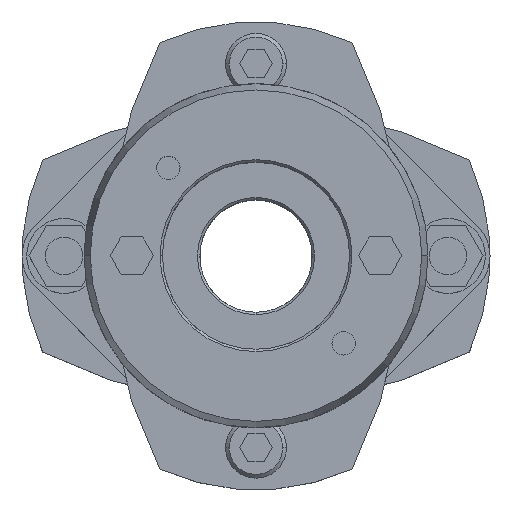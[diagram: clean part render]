
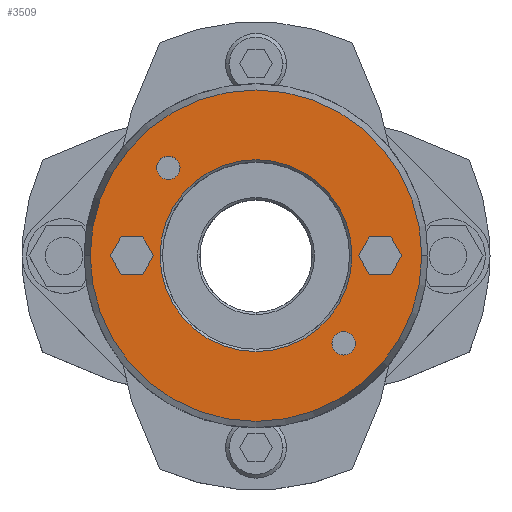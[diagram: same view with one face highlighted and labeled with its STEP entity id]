
A CAD part, top view. The second image highlights one B-rep face of the part: STEP entity #3509.
In plain terms, the highlighted planar face has unit normal (0, 0, 1).
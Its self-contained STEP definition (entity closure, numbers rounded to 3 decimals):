
#1471=CARTESIAN_POINT('',(-20.5,0.,42.0));
#1472=VERTEX_POINT('',#1471);
#1488=CARTESIAN_POINT('',(20.5,0.,42.0));
#1489=VERTEX_POINT('',#1488);
#1496=CARTESIAN_POINT('',(0.,0.,42.0));
#1497=DIRECTION('',(0.0,0.0,1.0));
#1498=DIRECTION('',(-1.0,0.0,0.0));
#1499=AXIS2_PLACEMENT_3D('',#1496,#1497,#1498);
#1500=CIRCLE('',#1499,20.5);
#1501=EDGE_CURVE('',#1489,#1472,#1500,.T.);
#1617=CARTESIAN_POINT('',(35.41,0.,42.0));
#1618=VERTEX_POINT('',#1617);
#1627=CARTESIAN_POINT('',(-35.41,0.,42.0));
#1628=VERTEX_POINT('',#1627);
#1629=CARTESIAN_POINT('',(0.,0.,42.0));
#1630=DIRECTION('',(0.0,0.0,-1.0));
#1631=DIRECTION('',(1.0,0.0,0.0));
#1632=AXIS2_PLACEMENT_3D('',#1629,#1630,#1631);
#1633=CIRCLE('',#1632,35.41);
#1634=EDGE_CURVE('',#1618,#1628,#1633,.T.);
#1803=CARTESIAN_POINT('',(-21.238,18.738,42.0));
#1804=VERTEX_POINT('',#1803);
#1820=CARTESIAN_POINT('',(-16.238,18.738,42.0));
#1821=VERTEX_POINT('',#1820);
#1828=CARTESIAN_POINT('',(-18.738,18.738,42.0));
#1829=DIRECTION('',(0.0,0.0,-1.0));
#1830=DIRECTION('',(-1.0,0.0,0.0));
#1831=AXIS2_PLACEMENT_3D('',#1828,#1829,#1830);
#1832=CIRCLE('',#1831,2.5);
#1833=EDGE_CURVE('',#1804,#1821,#1832,.T.);
#1845=CARTESIAN_POINT('',(16.238,-18.738,42.0));
#1846=VERTEX_POINT('',#1845);
#1862=CARTESIAN_POINT('',(21.238,-18.738,42.0));
#1863=VERTEX_POINT('',#1862);
#1870=CARTESIAN_POINT('',(18.738,-18.738,42.0));
#1871=DIRECTION('',(0.0,0.0,-1.0));
#1872=DIRECTION('',(-1.0,0.0,0.0));
#1873=AXIS2_PLACEMENT_3D('',#1870,#1871,#1872);
#1874=CIRCLE('',#1873,2.5);
#1875=EDGE_CURVE('',#1846,#1863,#1874,.T.);
#2635=CARTESIAN_POINT('',(21.881,0.,42.0));
#2636=VERTEX_POINT('',#2635);
#2643=CARTESIAN_POINT('',(24.191,-4.,42.0));
#2644=VERTEX_POINT('',#2643);
#2645=CARTESIAN_POINT('',(24.191,-4.,42.0));
#2646=DIRECTION('',(-0.5,0.866,0.0));
#2647=VECTOR('',#2646,4.619);
#2648=LINE('',#2645,#2647);
#2649=EDGE_CURVE('',#2644,#2636,#2648,.T.);
#2673=CARTESIAN_POINT('',(24.191,4.,42.0));
#2674=VERTEX_POINT('',#2673);
#2681=CARTESIAN_POINT('',(21.881,0.,42.0));
#2682=DIRECTION('',(0.5,0.866,0.0));
#2683=VECTOR('',#2682,4.619);
#2684=LINE('',#2681,#2683);
#2685=EDGE_CURVE('',#2636,#2674,#2684,.T.);
#2704=CARTESIAN_POINT('',(28.809,4.,42.0));
#2705=VERTEX_POINT('',#2704);
#2712=CARTESIAN_POINT('',(24.191,4.,42.0));
#2713=DIRECTION('',(1.0,0.0,0.0));
#2714=VECTOR('',#2713,4.619);
#2715=LINE('',#2712,#2714);
#2716=EDGE_CURVE('',#2674,#2705,#2715,.T.);
#2735=CARTESIAN_POINT('',(31.119,0.,42.0));
#2736=VERTEX_POINT('',#2735);
#2743=CARTESIAN_POINT('',(28.809,4.,42.0));
#2744=DIRECTION('',(0.5,-0.866,0.0));
#2745=VECTOR('',#2744,4.619);
#2746=LINE('',#2743,#2745);
#2747=EDGE_CURVE('',#2705,#2736,#2746,.T.);
#2766=CARTESIAN_POINT('',(28.809,-4.,42.0));
#2767=VERTEX_POINT('',#2766);
#2774=CARTESIAN_POINT('',(31.119,0.,42.0));
#2775=DIRECTION('',(-0.5,-0.866,0.0));
#2776=VECTOR('',#2775,4.619);
#2777=LINE('',#2774,#2776);
#2778=EDGE_CURVE('',#2736,#2767,#2777,.T.);
#2796=CARTESIAN_POINT('',(28.809,-4.,42.0));
#2797=DIRECTION('',(-1.0,0.0,0.0));
#2798=VECTOR('',#2797,4.619);
#2799=LINE('',#2796,#2798);
#2800=EDGE_CURVE('',#2767,#2644,#2799,.T.);
#2835=CARTESIAN_POINT('',(-31.119,0.,42.0));
#2836=VERTEX_POINT('',#2835);
#2843=CARTESIAN_POINT('',(-28.809,-4.,42.0));
#2844=VERTEX_POINT('',#2843);
#2845=CARTESIAN_POINT('',(-28.809,-4.,42.0));
#2846=DIRECTION('',(-0.5,0.866,0.0));
#2847=VECTOR('',#2846,4.619);
#2848=LINE('',#2845,#2847);
#2849=EDGE_CURVE('',#2844,#2836,#2848,.T.);
#2873=CARTESIAN_POINT('',(-28.809,4.,42.0));
#2874=VERTEX_POINT('',#2873);
#2881=CARTESIAN_POINT('',(-31.119,0.,42.0));
#2882=DIRECTION('',(0.5,0.866,0.0));
#2883=VECTOR('',#2882,4.619);
#2884=LINE('',#2881,#2883);
#2885=EDGE_CURVE('',#2836,#2874,#2884,.T.);
#2904=CARTESIAN_POINT('',(-24.191,4.,42.0));
#2905=VERTEX_POINT('',#2904);
#2912=CARTESIAN_POINT('',(-28.809,4.,42.0));
#2913=DIRECTION('',(1.0,0.0,0.0));
#2914=VECTOR('',#2913,4.619);
#2915=LINE('',#2912,#2914);
#2916=EDGE_CURVE('',#2874,#2905,#2915,.T.);
#2935=CARTESIAN_POINT('',(-21.881,0.,42.0));
#2936=VERTEX_POINT('',#2935);
#2943=CARTESIAN_POINT('',(-24.191,4.,42.0));
#2944=DIRECTION('',(0.5,-0.866,0.0));
#2945=VECTOR('',#2944,4.619);
#2946=LINE('',#2943,#2945);
#2947=EDGE_CURVE('',#2905,#2936,#2946,.T.);
#2966=CARTESIAN_POINT('',(-24.191,-4.,42.0));
#2967=VERTEX_POINT('',#2966);
#2974=CARTESIAN_POINT('',(-21.881,0.,42.0));
#2975=DIRECTION('',(-0.5,-0.866,0.0));
#2976=VECTOR('',#2975,4.619);
#2977=LINE('',#2974,#2976);
#2978=EDGE_CURVE('',#2936,#2967,#2977,.T.);
#2996=CARTESIAN_POINT('',(-24.191,-4.,42.0));
#2997=DIRECTION('',(-1.0,0.0,0.0));
#2998=VECTOR('',#2997,4.619);
#2999=LINE('',#2996,#2998);
#3000=EDGE_CURVE('',#2967,#2844,#2999,.T.);
#3026=CARTESIAN_POINT('',(18.738,-18.738,42.0));
#3027=DIRECTION('',(0.0,0.0,-1.0));
#3028=DIRECTION('',(-1.0,0.0,0.0));
#3029=AXIS2_PLACEMENT_3D('',#3026,#3027,#3028);
#3030=CIRCLE('',#3029,2.5);
#3031=EDGE_CURVE('',#1863,#1846,#3030,.T.);
#3060=CARTESIAN_POINT('',(-18.738,18.738,42.0));
#3061=DIRECTION('',(0.0,0.0,-1.0));
#3062=DIRECTION('',(-1.0,0.0,0.0));
#3063=AXIS2_PLACEMENT_3D('',#3060,#3061,#3062);
#3064=CIRCLE('',#3063,2.5);
#3065=EDGE_CURVE('',#1821,#1804,#3064,.T.);
#3456=CARTESIAN_POINT('',(0.,0.,42.0));
#3457=DIRECTION('',(0.0,0.0,-1.0));
#3458=DIRECTION('',(1.0,0.0,0.0));
#3459=AXIS2_PLACEMENT_3D('',#3456,#3457,#3458);
#3460=CIRCLE('',#3459,35.41);
#3461=EDGE_CURVE('',#1628,#1618,#3460,.T.);
#3466=CARTESIAN_POINT('',(-3.341,0.,42.0));
#3467=DIRECTION('',(0.0,0.0,1.0));
#3468=DIRECTION('',(-1.0,0.0,0.0));
#3469=AXIS2_PLACEMENT_3D('',#3466,#3467,#3468);
#3470=PLANE('',#3469);
#3471=ORIENTED_EDGE('',*,*,#3461,.F.);
#3472=ORIENTED_EDGE('',*,*,#1634,.F.);
#3473=EDGE_LOOP('',(#3471,#3472));
#3474=FACE_OUTER_BOUND('',#3473,.T.);
#3475=ORIENTED_EDGE('',*,*,#2649,.T.);
#3476=ORIENTED_EDGE('',*,*,#2685,.T.);
#3477=ORIENTED_EDGE('',*,*,#2716,.T.);
#3478=ORIENTED_EDGE('',*,*,#2747,.T.);
#3479=ORIENTED_EDGE('',*,*,#2778,.T.);
#3480=ORIENTED_EDGE('',*,*,#2800,.T.);
#3481=EDGE_LOOP('',(#3475,#3476,#3477,#3478,#3479,#3480));
#3482=FACE_BOUND('',#3481,.T.);
#3483=ORIENTED_EDGE('',*,*,#2849,.T.);
#3484=ORIENTED_EDGE('',*,*,#2885,.T.);
#3485=ORIENTED_EDGE('',*,*,#2916,.T.);
#3486=ORIENTED_EDGE('',*,*,#2947,.T.);
#3487=ORIENTED_EDGE('',*,*,#2978,.T.);
#3488=ORIENTED_EDGE('',*,*,#3000,.T.);
#3489=EDGE_LOOP('',(#3483,#3484,#3485,#3486,#3487,#3488));
#3490=FACE_BOUND('',#3489,.T.);
#3491=ORIENTED_EDGE('',*,*,#1875,.T.);
#3492=ORIENTED_EDGE('',*,*,#3031,.T.);
#3493=EDGE_LOOP('',(#3491,#3492));
#3494=FACE_BOUND('',#3493,.T.);
#3495=ORIENTED_EDGE('',*,*,#1833,.T.);
#3496=ORIENTED_EDGE('',*,*,#3065,.T.);
#3497=EDGE_LOOP('',(#3495,#3496));
#3498=FACE_BOUND('',#3497,.T.);
#3499=ORIENTED_EDGE('',*,*,#1501,.F.);
#3500=CARTESIAN_POINT('',(0.,0.,42.0));
#3501=DIRECTION('',(0.0,0.0,1.0));
#3502=DIRECTION('',(-1.0,0.0,0.0));
#3503=AXIS2_PLACEMENT_3D('',#3500,#3501,#3502);
#3504=CIRCLE('',#3503,20.5);
#3505=EDGE_CURVE('',#1472,#1489,#3504,.T.);
#3506=ORIENTED_EDGE('',*,*,#3505,.F.);
#3507=EDGE_LOOP('',(#3499,#3506));
#3508=FACE_BOUND('',#3507,.T.);
#3509=ADVANCED_FACE('',(#3474,#3482,#3490,#3494,#3498,#3508),#3470,.T.);
